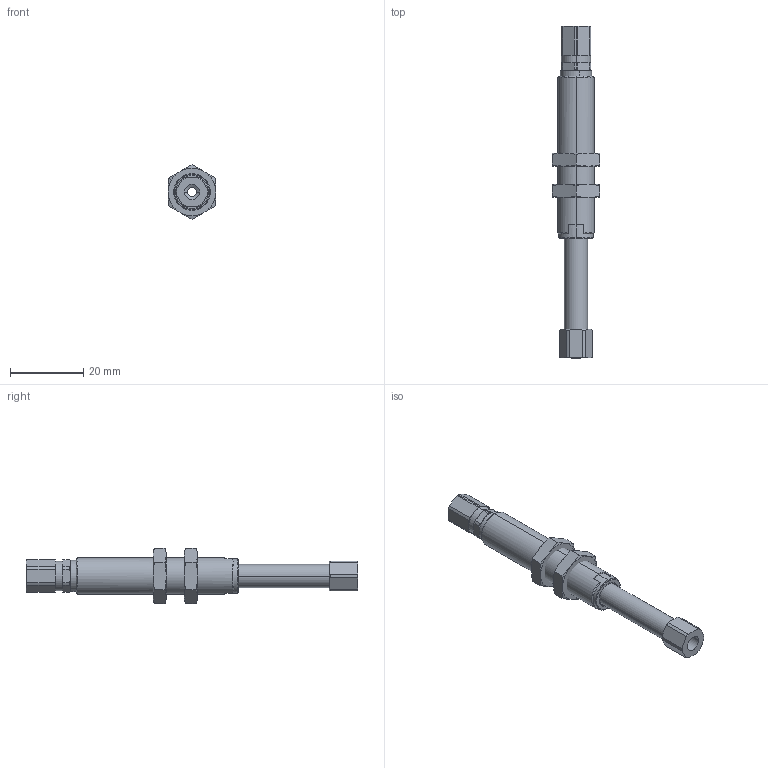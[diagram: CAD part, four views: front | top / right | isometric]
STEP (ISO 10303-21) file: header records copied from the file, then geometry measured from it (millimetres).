
FILE_DESCRIPTION (( 'STEP AP203' ), '1' );
FILE_NAME ('VSRT1025.STEP', '2021-02-09T08:50:45', ( '' ), ( '' ), 'SwSTEP 2.0', 'SolidWorks 2020', '' );
FILE_SCHEMA (( 'CONFIG_CONTROL_DESIGN' ));
Length unit declared in the file: millimetre
Products named in the file (1): VSRT1025
Bounding box: 13 x 90.5 x 15.01 mm (x, y, z)
Volume: 4766.4 mm3; surface area: 6459.9 mm2
Topology: 4 solids, 8 shells, 296 faces, 709 edges, 442 vertices
Faces by surface type: cone 100, plane 83, cylinder 77, torus 20, sphere 16
Entity records: 8862 total; most frequent: CARTESIAN_POINT 1788, DIRECTION 1557, ORIENTED_EDGE 1418, EDGE_CURVE 709, AXIS2_PLACEMENT_3D 659, VERTEX_POINT 442, CIRCLE 362, EDGE_LOOP 329
